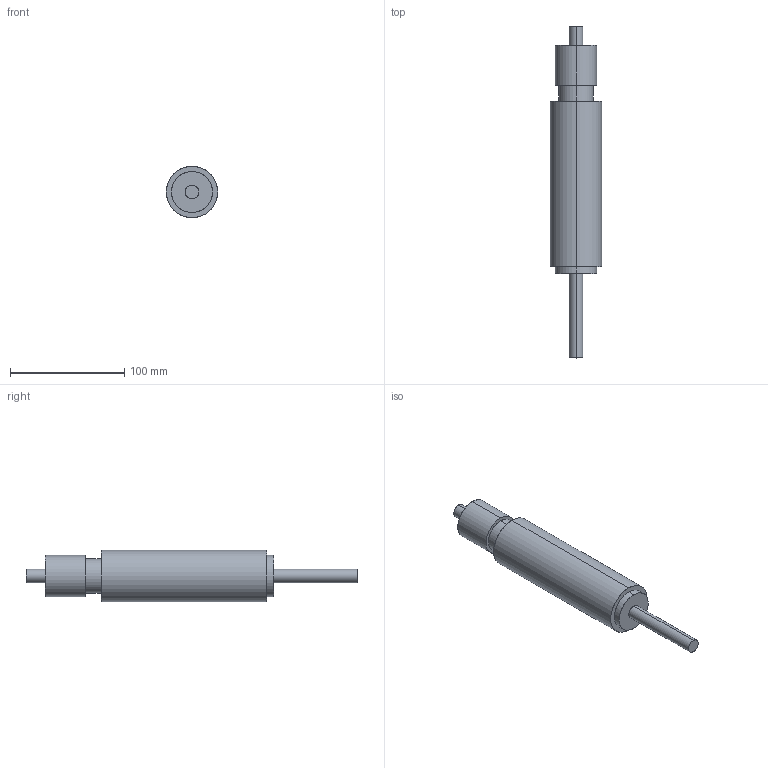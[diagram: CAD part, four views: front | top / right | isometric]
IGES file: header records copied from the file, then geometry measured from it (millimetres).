
Start section: START RECORD GO HERE.
Global section: file name: D995-2.igs; native system: DASSAULT SYSTEMES CATIA V5 R20 - www.3ds.com; preprocessor: CATIA Version 5 Release 20 ; author: Utente; organization: NB04-ASUS; date: 20200417.155858; units: millimetre
Bounding box: 45 x 291 x 45 mm (x, y, z)
Surface area: 33688.9 mm2 (no closed solid volume)
Topology: 0 solids, 0 shells, 19 faces, 72 edges, 72 vertices
Faces by surface type: revolution 12, extrusion 7
